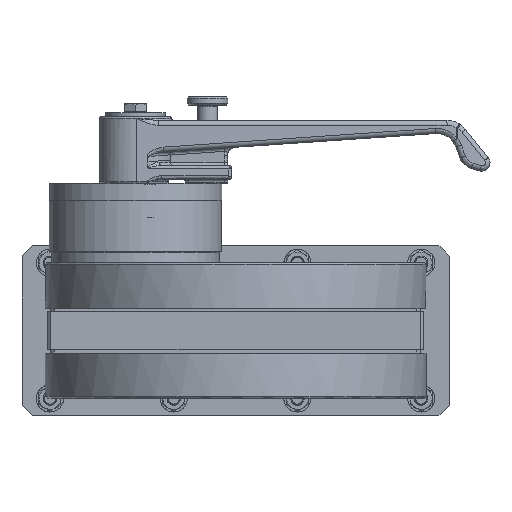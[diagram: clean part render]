
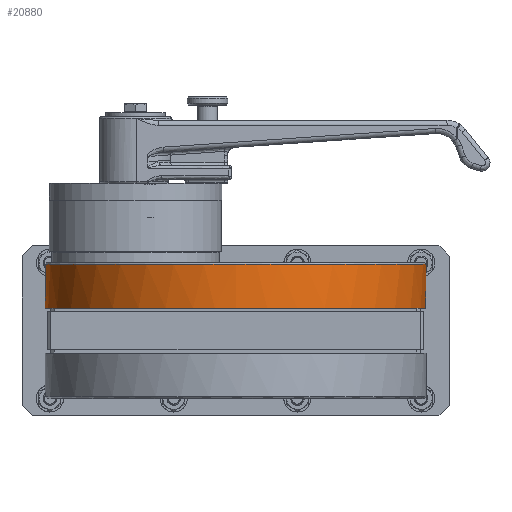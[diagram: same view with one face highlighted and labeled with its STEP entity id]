
A CAD part, front view. The second image highlights one B-rep face of the part: STEP entity #20880.
In plain terms, the highlighted free-form (B-spline) face has degree [2, 1] with [7, 2] control points.
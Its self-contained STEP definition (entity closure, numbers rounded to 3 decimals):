
#20805=CARTESIAN_POINT('V8',(112.4,0.,0.0)
   );
#20806=VERTEX_POINT('V8',#20805);
#20807=CARTESIAN_POINT('E12',(112.4,0.,0.0)
   );
#20808=CARTESIAN_POINT('E12',(112.4,0.,
   -194.683));
#20809=CARTESIAN_POINT('E12',(-56.2,0.,
   -97.341));
#20810=CARTESIAN_POINT('E12',(-224.8,0.,
   0.));
#20811=CARTESIAN_POINT('E12',(-56.2,0.,
   97.341));
#20812=CARTESIAN_POINT('E12',(112.4,0.,
   194.683));
#20813=CARTESIAN_POINT('E12',(112.4,0.,0.0)
   );
#20821=(BOUNDED_CURVE()B_SPLINE_CURVE(2,(#20807,#20808,#20809,
   #20810,#20811,#20812,#20813),.CIRCULAR_ARC.,.T.,.U.)
   B_SPLINE_CURVE_WITH_KNOTS((3,2,2,3),(0.0,15.033,
   30.067,45.1),.UNSPECIFIED.)CURVE()
   GEOMETRIC_REPRESENTATION_ITEM()RATIONAL_B_SPLINE_CURVE((1.0,
   0.5,1.0,0.5,1.0,0.5,1.0)
   )REPRESENTATION_ITEM('E12'));
#20822=EDGE_CURVE('E12',#20806,#20806,#20821,.T.);
#20830=CARTESIAN_POINT('F7',(112.4,0.,0.0)
   );
#20831=CARTESIAN_POINT('F7',(112.4,0.,
   -194.683));
#20832=CARTESIAN_POINT('F7',(-56.2,0.,
   -97.341));
#20833=CARTESIAN_POINT('F7',(-224.8,0.,
   0.));
#20834=CARTESIAN_POINT('F7',(-56.2,0.,
   97.341));
#20835=CARTESIAN_POINT('F7',(112.4,0.,
   194.683));
#20836=CARTESIAN_POINT('F7',(112.4,0.,0.0)
   );
#20837=CARTESIAN_POINT('F7',(112.4,25.9,
   0.0));
#20838=CARTESIAN_POINT('F7',(112.4,25.9,
   -194.683));
#20839=CARTESIAN_POINT('F7',(-56.2,25.9,
   -97.341));
#20840=CARTESIAN_POINT('F7',(-224.8,25.9,
   0.));
#20841=CARTESIAN_POINT('F7',(-56.2,25.9,
   97.341));
#20842=CARTESIAN_POINT('F7',(112.4,25.9,
   194.683));
#20843=CARTESIAN_POINT('F7',(112.4,25.9,
   0.0));
#20851=(BOUNDED_SURFACE()B_SPLINE_SURFACE(2,1,((#20830,#20837),(
   #20831,#20838),(#20832,#20839),(#20833,#20840),(#20834,
   #20841),(#20835,#20842),(#20836,#20843)),.CYLINDRICAL_SURF.,
   .T.,.F.,.U.)B_SPLINE_SURFACE_WITH_KNOTS((3,2,2,3),(2,2),(0.0,
   15.033,30.067,45.1),(0.0,
   1.0),.UNSPECIFIED.)GEOMETRIC_REPRESENTATION_ITEM()
   RATIONAL_B_SPLINE_SURFACE(((1.0,1.0),(0.5,
   0.5),(1.0,1.0),(0.5,
   0.5),(1.0,1.0),(0.5,
   0.5),(1.0,1.0)))REPRESENTATION_ITEM('F7')SURFACE()
   );
#20852=CARTESIAN_POINT('V2',(112.4,25.9,
   0.0));
#20853=VERTEX_POINT('V2',#20852);
#20854=CARTESIAN_POINT('E13',(112.4,25.9,
   0.0));
#20855=CARTESIAN_POINT('E13',(112.4,0.,0.0)
   );
#20856=QUASI_UNIFORM_CURVE('E13',1,(#20854,#20855),.POLYLINE_FORM.,
   .F.,.U.);
#20857=EDGE_CURVE('E13',#20853,#20806,#20856,.T.);
#20858=ORIENTED_EDGE('E13',*,*,#20857,.F.);
#20859=CARTESIAN_POINT('E2',(112.4,25.9,
   0.0));
#20860=CARTESIAN_POINT('E2',(112.4,25.9,
   194.683));
#20861=CARTESIAN_POINT('E2',(-56.2,25.9,
   97.341));
#20862=CARTESIAN_POINT('E2',(-224.8,25.9,
   0.));
#20863=CARTESIAN_POINT('E2',(-56.2,25.9,
   -97.341));
#20864=CARTESIAN_POINT('E2',(112.4,25.9,
   -194.683));
#20865=CARTESIAN_POINT('E2',(112.4,25.9,
   0.0));
#20873=(BOUNDED_CURVE()B_SPLINE_CURVE(2,(#20859,#20860,#20861,
   #20862,#20863,#20864,#20865),.CIRCULAR_ARC.,.T.,.U.)
   B_SPLINE_CURVE_WITH_KNOTS((3,2,2,3),(0.0,15.033,
   30.067,45.1),.UNSPECIFIED.)CURVE()
   GEOMETRIC_REPRESENTATION_ITEM()RATIONAL_B_SPLINE_CURVE((1.0,
   0.5,1.0,0.5,1.0,0.5,1.0)
   )REPRESENTATION_ITEM('E2'));
#20874=EDGE_CURVE('E2',#20853,#20853,#20873,.T.);
#20875=ORIENTED_EDGE('E2',*,*,#20874,.F.);
#20876=ORIENTED_EDGE('E13',*,*,#20857,.T.);
#20877=ORIENTED_EDGE('F6',*,*,#20822,.F.);
#20878=EDGE_LOOP('F7',(#20858,#20875,#20876,#20877));
#20879=FACE_OUTER_BOUND('F7',#20878,.F.);
#20880=ADVANCED_FACE('F7',(#20879),#20851,.T.);
